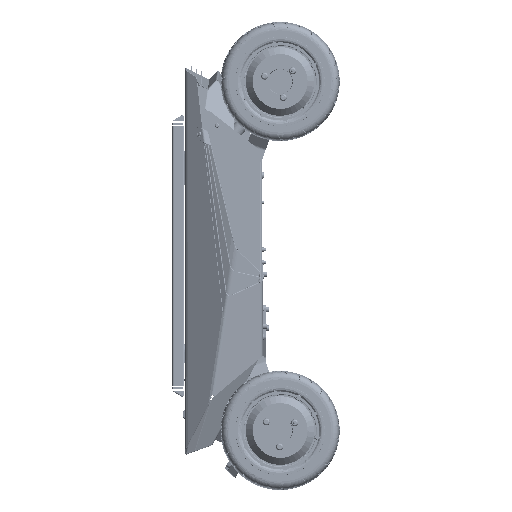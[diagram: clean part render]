
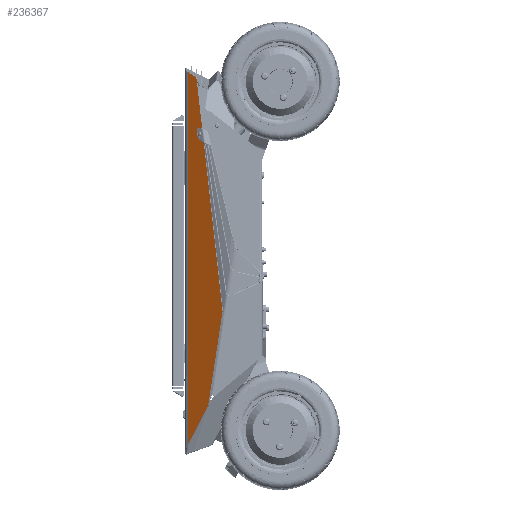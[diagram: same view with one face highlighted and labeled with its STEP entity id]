
A CAD part, left-side view. The second image highlights one B-rep face of the part: STEP entity #236367.
In plain terms, the highlighted planar face has unit normal (-0.819, 0.574, 0).
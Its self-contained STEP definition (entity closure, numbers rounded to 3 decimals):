
#13932 = EDGE_CURVE ( 'NONE', #484418, #93059, #307483, .T. ) ;
#15736 = CARTESIAN_POINT ( 'NONE',  ( -163.61, 80.879, 244.748 ) ) ;
#35464 = PLANE ( 'NONE',  #507852 ) ;
#39933 = CARTESIAN_POINT ( 'NONE',  ( -193.39, 38.349, -74.373 ) ) ;
#47459 = LINE ( 'NONE', #501711, #94123 ) ;
#49470 = DIRECTION ( 'NONE',  ( -0.306, -0.438, 0.845 ) ) ;
#50601 = EDGE_CURVE ( 'NONE', #241600, #512828, #321751, .T. ) ;
#50698 = CARTESIAN_POINT ( 'NONE',  ( -284.306, -91.493, 124.052 ) ) ;
#56459 = VERTEX_POINT ( 'NONE', #95257 ) ;
#74198 = VECTOR ( 'NONE', #49470, 1000. ) ;
#81682 = DIRECTION ( 'NONE',  ( 0.498, 0.711, 0.498 ) ) ;
#85311 = DIRECTION ( 'NONE',  ( 0.574, 0.819, 0. ) ) ;
#93059 = VERTEX_POINT ( 'NONE', #15736 ) ;
#93238 = VERTEX_POINT ( 'NONE', #300179 ) ;
#94123 = VECTOR ( 'NONE', #447419, 1000. ) ;
#95257 = CARTESIAN_POINT ( 'NONE',  ( -171.35, 69.825, 164.696 ) ) ;
#98487 = DIRECTION ( 'NONE',  ( 0.498, 0.711, 0.498 ) ) ;
#106426 = VERTEX_POINT ( 'NONE', #545741 ) ;
#110138 = DIRECTION ( 'NONE',  ( 0.574, 0.819, 0. ) ) ;
#124904 = CARTESIAN_POINT ( 'NONE',  ( -173.002, 67.466, -264.894 ) ) ;
#127069 = FACE_OUTER_BOUND ( 'NONE', #305413, .T. ) ;
#133059 = CARTESIAN_POINT ( 'NONE',  ( -172.559, 68.099, 162.561 ) ) ;
#133073 = EDGE_CURVE ( 'NONE', #106426, #375754, #511669, .T. ) ;
#135557 = VERTEX_POINT ( 'NONE', #420521 ) ;
#149367 = CARTESIAN_POINT ( 'NONE',  ( -158.244, 88.542, -260.316 ) ) ;
#150988 = LINE ( 'NONE', #364245, #563210 ) ;
#152694 = ORIENTED_EDGE ( 'NONE', *, *, #566055, .F. ) ;
#158706 = AXIS2_PLACEMENT_3D ( 'NONE', #503585, #407891, #110138 ) ;
#169155 = CARTESIAN_POINT ( 'NONE',  ( -160.943, 84.688, 247.416 ) ) ;
#171287 = CARTESIAN_POINT ( 'NONE',  ( -171.35, 69.825, 164.696 ) ) ;
#175708 = DIRECTION ( 'NONE',  ( -0.819, 0.574, 0. ) ) ;
#182101 = LINE ( 'NONE', #171287, #423535 ) ;
#236367 = ADVANCED_FACE ( 'NONE', ( #601706, #127069 ), #35464, .F. ) ;
#241600 = VERTEX_POINT ( 'NONE', #503257 ) ;
#244962 = VECTOR ( 'NONE', #98487, 1000. ) ;
#248502 = ORIENTED_EDGE ( 'NONE', *, *, #133073, .T. ) ;
#257896 = AXIS2_PLACEMENT_3D ( 'NONE', #133059, #296179, #85311 ) ;
#275347 = EDGE_CURVE ( 'NONE', #135557, #375754, #47459, .T. ) ;
#283189 = CARTESIAN_POINT ( 'NONE',  ( -157.957, 88.952, -260. ) ) ;
#288427 = ORIENTED_EDGE ( 'NONE', *, *, #455885, .T. ) ;
#296179 = DIRECTION ( 'NONE',  ( 0.819, -0.574, 0. ) ) ;
#300179 = CARTESIAN_POINT ( 'NONE',  ( -160.943, 84.688, -252.872 ) ) ;
#305413 = EDGE_LOOP ( 'NONE', ( #598774, #461623, #437226, #442634, #519138, #288427, #248502 ) ) ;
#307483 = LINE ( 'NONE', #50698, #244962 ) ;
#311067 = ORIENTED_EDGE ( 'NONE', *, *, #50601, .T. ) ;
#318612 = LINE ( 'NONE', #610666, #629825 ) ;
#321751 = CIRCLE ( 'NONE', #257896, 1.8 ) ;
#323808 = CARTESIAN_POINT ( 'NONE',  ( -167.638, 75.127, 240.721 ) ) ;
#351092 = EDGE_CURVE ( 'NONE', #56459, #610597, #569035, .T. ) ;
#362854 = DIRECTION ( 'NONE',  ( 0., 0., -1. ) ) ;
#364245 = CARTESIAN_POINT ( 'NONE',  ( -173.396, 66.904, 165.182 ) ) ;
#365642 = CARTESIAN_POINT ( 'NONE',  ( -173.396, 66.904, 165.182 ) ) ;
#375653 = DIRECTION ( 'NONE',  ( 0.574, 0.819, 0. ) ) ;
#375754 = VERTEX_POINT ( 'NONE', #39933 ) ;
#379366 = EDGE_CURVE ( 'NONE', #392261, #93238, #318612, .T. ) ;
#379418 = VECTOR ( 'NONE', #472591, 1000. ) ;
#392261 = VERTEX_POINT ( 'NONE', #169155 ) ;
#404931 = AXIS2_PLACEMENT_3D ( 'NONE', #577740, #175708, #375653 ) ;
#407891 = DIRECTION ( 'NONE',  ( 0.819, -0.574, 0. ) ) ;
#420521 = CARTESIAN_POINT ( 'NONE',  ( -169.052, 73.107, 237.059 ) ) ;
#423535 = VECTOR ( 'NONE', #475423, 1000. ) ;
#428550 = LINE ( 'NONE', #433679, #482793 ) ;
#433679 = CARTESIAN_POINT ( 'NONE',  ( -284.306, -91.493, 124.052 ) ) ;
#437226 = ORIENTED_EDGE ( 'NONE', *, *, #13932, .T. ) ;
#442634 = ORIENTED_EDGE ( 'NONE', *, *, #478819, .T. ) ;
#447004 = CIRCLE ( 'NONE', #404931, 5. ) ;
#447419 = DIRECTION ( 'NONE',  ( -0.077, -0.111, -0.991 ) ) ;
#455885 = EDGE_CURVE ( 'NONE', #93238, #106426, #579354, .T. ) ;
#461623 = ORIENTED_EDGE ( 'NONE', *, *, #475782, .T. ) ;
#472591 = DIRECTION ( 'NONE',  ( -0.105, -0.15, 0.983 ) ) ;
#475423 = DIRECTION ( 'NONE',  ( -0.077, -0.111, -0.991 ) ) ;
#475782 = EDGE_CURVE ( 'NONE', #135557, #484418, #447004, .T. ) ;
#478810 = DIRECTION ( 'NONE',  ( 0.819, -0.574, 0. ) ) ;
#478819 = EDGE_CURVE ( 'NONE', #93059, #392261, #428550, .T. ) ;
#482793 = VECTOR ( 'NONE', #81682, 1000. ) ;
#483124 = DIRECTION ( 'NONE',  ( -0.574, -0.819, 0. ) ) ;
#484418 = VERTEX_POINT ( 'NONE', #323808 ) ;
#487811 = ORIENTED_EDGE ( 'NONE', *, *, #351092, .T. ) ;
#501711 = CARTESIAN_POINT ( 'NONE',  ( -168.862, 73.379, 239.497 ) ) ;
#503257 = CARTESIAN_POINT ( 'NONE',  ( -173.582, 66.638, 162.804 ) ) ;
#503585 = CARTESIAN_POINT ( 'NONE',  ( -172.373, 68.365, 164.939 ) ) ;
#503982 = EDGE_LOOP ( 'NONE', ( #487811, #532819, #311067, #152694 ) ) ;
#507852 = AXIS2_PLACEMENT_3D ( 'NONE', #283189, #478810, #483124 ) ;
#511669 = LINE ( 'NONE', #124904, #379418 ) ;
#512828 = VERTEX_POINT ( 'NONE', #536529 ) ;
#519138 = ORIENTED_EDGE ( 'NONE', *, *, #379366, .T. ) ;
#532819 = ORIENTED_EDGE ( 'NONE', *, *, #600547, .T. ) ;
#536529 = CARTESIAN_POINT ( 'NONE',  ( -171.536, 69.56, 162.318 ) ) ;
#545741 = CARTESIAN_POINT ( 'NONE',  ( -179.877, 57.648, -200.649 ) ) ;
#563210 = VECTOR ( 'NONE', #612069, 1000. ) ;
#566055 = EDGE_CURVE ( 'NONE', #56459, #512828, #182101, .T. ) ;
#569035 = CIRCLE ( 'NONE', #158706, 1.8 ) ;
#577740 = CARTESIAN_POINT ( 'NONE',  ( -166.211, 77.165, 236.384 ) ) ;
#579354 = LINE ( 'NONE', #149367, #74198 ) ;
#598774 = ORIENTED_EDGE ( 'NONE', *, *, #275347, .F. ) ;
#600547 = EDGE_CURVE ( 'NONE', #610597, #241600, #150988, .T. ) ;
#601706 = FACE_BOUND ( 'NONE', #503982, .T. ) ;
#610597 = VERTEX_POINT ( 'NONE', #365642 ) ;
#610666 = CARTESIAN_POINT ( 'NONE',  ( -160.943, 84.688, -260. ) ) ;
#612069 = DIRECTION ( 'NONE',  ( -0.077, -0.111, -0.991 ) ) ;
#629825 = VECTOR ( 'NONE', #362854, 1000. ) ;
